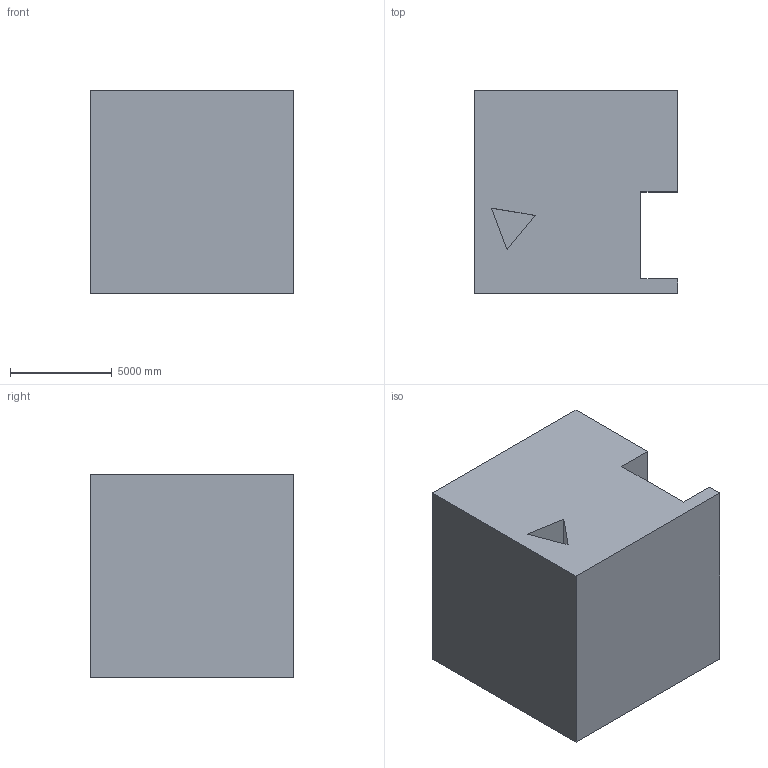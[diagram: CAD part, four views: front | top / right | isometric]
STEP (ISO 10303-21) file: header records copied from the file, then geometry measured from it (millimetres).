
FILE_DESCRIPTION (( 'STEP AP203' ), '1' );
FILE_NAME ('1292.STEP', '2022-08-18T13:35:58', ( 'user' ), ( '' ), 'SwSTEP 2.0', 'SolidWorks 2021', '' );
FILE_SCHEMA (( 'CONFIG_CONTROL_DESIGN' ));
Length unit declared in the file: centimetre
Products named in the file (1): 1292
Bounding box: 10000 x 10000 x 10000 mm (x, y, z)
Volume: 891229249914.5 mm3; surface area: 671984930.9 mm2
Topology: 1 solids, 1 shells, 20 faces, 51 edges, 34 vertices
Faces by surface type: plane 20
Entity records: 672 total; most frequent: CARTESIAN_POINT 106, ORIENTED_EDGE 102, DIRECTION 93, EDGE_CURVE 51, VECTOR 51, LINE 51, VERTEX_POINT 34, EDGE_LOOP 21
